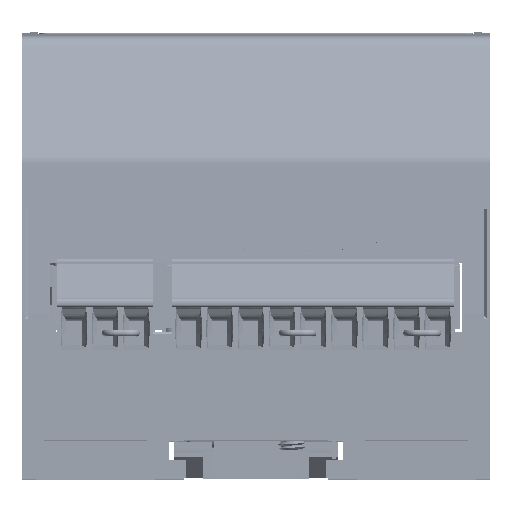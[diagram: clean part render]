
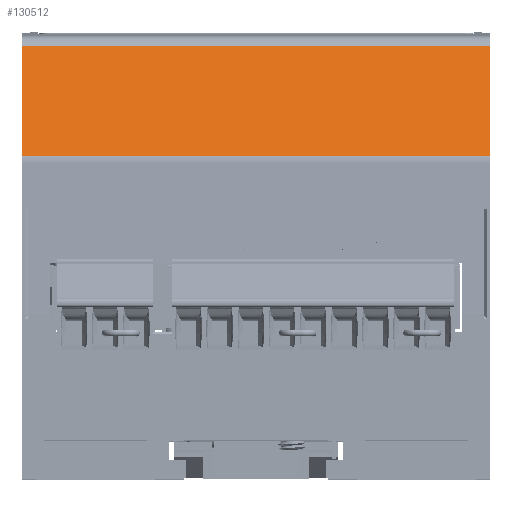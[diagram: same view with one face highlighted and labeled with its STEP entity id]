
A CAD part, top view. The second image highlights one B-rep face of the part: STEP entity #130512.
In plain terms, the highlighted planar face has unit normal (0, 0.391, 0.92) as drawn and (-0.921, 0, -0.391) by its records, which use the part's own axes.
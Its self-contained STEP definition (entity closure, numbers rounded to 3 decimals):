
#12170 = CARTESIAN_POINT ( 'NONE',  ( 22.613, 44.635, -0.794 ) ) ;
#15408 = CARTESIAN_POINT ( 'NONE',  ( 22.613, 14.585, -0.794 ) ) ;
#21203 = CARTESIAN_POINT ( 'NONE',  ( 17.362, -7.965, 11.578 ) ) ;
#30588 = VECTOR ( 'NONE', #315178, 1000. ) ;
#31799 = PLANE ( 'NONE',  #283796 ) ;
#39410 = DIRECTION ( 'NONE',  ( -0.921, 0., -0.391 ) ) ;
#43017 = FACE_OUTER_BOUND ( 'NONE', #369561, .T. ) ;
#59158 = CARTESIAN_POINT ( 'NONE',  ( 22.613, -7.965, -0.794 ) ) ;
#64507 = LINE ( 'NONE', #373328, #185895 ) ;
#99880 = EDGE_CURVE ( 'NONE', #309186, #428647, #400430, .T. ) ;
#102378 = ORIENTED_EDGE ( 'NONE', *, *, #285936, .F. ) ;
#102793 = CARTESIAN_POINT ( 'NONE',  ( 22.613, 59.512, -0.794 ) ) ;
#130512 = ADVANCED_FACE ( 'NONE', ( #43017 ), #31799, .T. ) ;
#154318 = DIRECTION ( 'NONE',  ( 0., 1., 0. ) ) ;
#185895 = VECTOR ( 'NONE', #300806, 1000. ) ;
#221691 = ORIENTED_EDGE ( 'NONE', *, *, #370955, .F. ) ;
#239760 = LINE ( 'NONE', #15408, #405152 ) ;
#251896 = CARTESIAN_POINT ( 'NONE',  ( 17.362, 44.635, 11.578 ) ) ;
#282889 = CARTESIAN_POINT ( 'NONE',  ( 17.362, 59.512, 11.578 ) ) ;
#283796 = AXIS2_PLACEMENT_3D ( 'NONE', #102793, #39410, #320355 ) ;
#285936 = EDGE_CURVE ( 'NONE', #309186, #423909, #388789, .T. ) ;
#300773 = CARTESIAN_POINT ( 'NONE',  ( 17.362, -7.965, 11.578 ) ) ;
#300806 = DIRECTION ( 'NONE',  ( -0.391, 0., 0.921 ) ) ;
#301492 = ORIENTED_EDGE ( 'NONE', *, *, #99880, .T. ) ;
#309186 = VERTEX_POINT ( 'NONE', #300773 ) ;
#315178 = DIRECTION ( 'NONE',  ( 0., 1., 0. ) ) ;
#320355 = DIRECTION ( 'NONE',  ( -0.391, 0., 0.921 ) ) ;
#346602 = ORIENTED_EDGE ( 'NONE', *, *, #438059, .F. ) ;
#369561 = EDGE_LOOP ( 'NONE', ( #221691, #102378, #301492, #346602 ) ) ;
#370955 = EDGE_CURVE ( 'NONE', #423909, #429921, #239760, .T. ) ;
#373328 = CARTESIAN_POINT ( 'NONE',  ( 22.613, 44.635, -0.794 ) ) ;
#383481 = VECTOR ( 'NONE', #411593, 1000. ) ;
#388789 = LINE ( 'NONE', #21203, #383481 ) ;
#400430 = LINE ( 'NONE', #282889, #30588 ) ;
#405152 = VECTOR ( 'NONE', #154318, 1000. ) ;
#411593 = DIRECTION ( 'NONE',  ( 0.391, 0., -0.921 ) ) ;
#423909 = VERTEX_POINT ( 'NONE', #59158 ) ;
#428647 = VERTEX_POINT ( 'NONE', #251896 ) ;
#429921 = VERTEX_POINT ( 'NONE', #12170 ) ;
#438059 = EDGE_CURVE ( 'NONE', #429921, #428647, #64507, .T. ) ;
